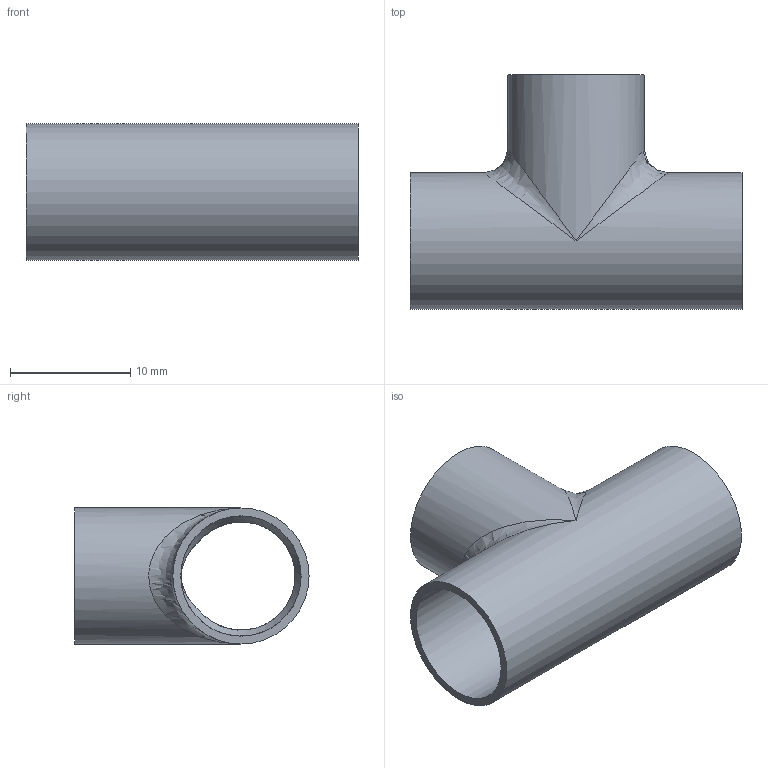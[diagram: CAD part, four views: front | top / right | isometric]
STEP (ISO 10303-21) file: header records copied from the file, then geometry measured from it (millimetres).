
FILE_DESCRIPTION((''),'2;1');
FILE_NAME('G:\SANHA-ESSEN\Entwicklung\Management\__STEP-Dateien_alle Serien\Serie 5000\5130\5130_egal\1513010.stp','2016-05-09T11:40:31',('lohse'),(''),'Autodesk Inventor 2009','Autodesk Inventor 2009','');
FILE_SCHEMA(('AUTOMOTIVE_DESIGN { 1 0 10303 214 1 1 1 1 }'));
Length unit declared in the file: millimetre
Products named in the file (1): 1513010
Bounding box: 27.6 x 19.46 x 11.32 mm (x, y, z)
Volume: 904.3 mm3; surface area: 2359.2 mm2
Topology: 1 solids, 1 shells, 18 faces, 66 edges, 41 vertices
Faces by surface type: cylinder 8, bspline 4, cone 3, plane 3
Full cylindrical faces by diameter (mm): 10 x2, 10.12 x1, 11.32 x2
Entity records: 1384 total; most frequent: CARTESIAN_POINT 885, DIRECTION 104, ORIENTED_EDGE 90, AXIS2_PLACEMENT_3D 52, EDGE_CURVE 45, VERTEX_POINT 37, EDGE_LOOP 30, ELLIPSE 24
